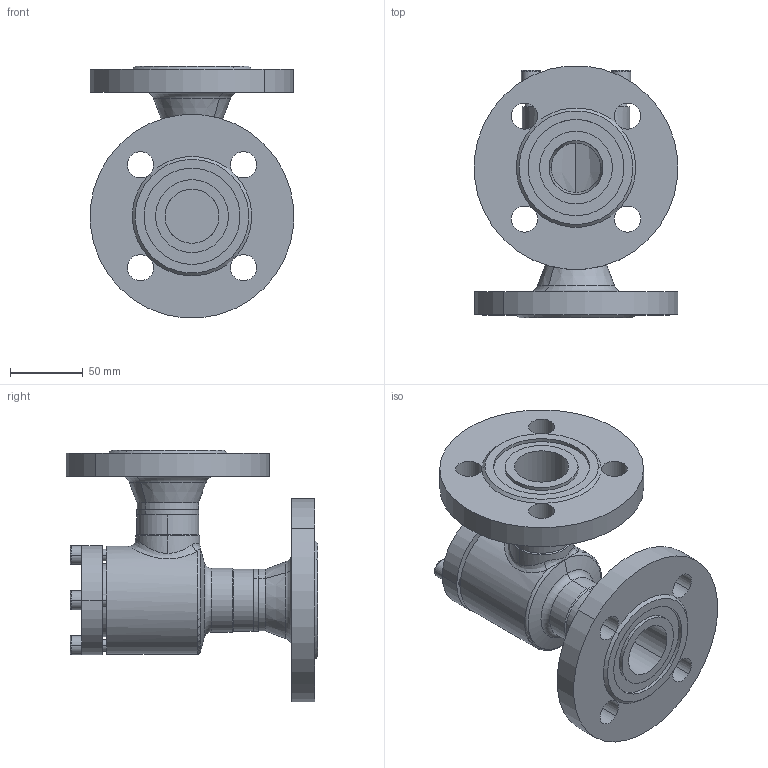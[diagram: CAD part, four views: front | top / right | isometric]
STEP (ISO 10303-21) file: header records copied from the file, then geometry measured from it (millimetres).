
FILE_DESCRIPTION (( 'STEP AP214' ), '1' );
FILE_NAME ('SS52420D13-DN032_DIN-FL-N_PS40.STEP', '2006-05-02T05:54:46', ( 'Herr Grams' ), ( 'AWP GmbH' ), 'SwSTEP 2.0', 'SolidWorks 2002296', '' );
FILE_SCHEMA (( 'AUTOMOTIVE_DESIGN' ));
Length unit declared in the file: millimetre
Products named in the file (9): SS52420D13-DN032_DIN-FL-N_PS40; Gehäuse-kpl16420-DN032_DIN_PS40_Standard; Gehäuse16400-DN032_Standard; Flansch-DIN2635-Nut_PS40_DIN-Flansch-DN032_PS40-Nut; bead16420-Geh-032-2_Standard; bead16420-Geh-032-1_Standard; SS52300E13_Deck+Schr-DN25-32_Standard; Deckel52300E13-DN25-32_Standard; Zylinderschraube-DIN912_M 8x 25
Assembly tree (12 placements, depth 3):
  SS52420D13-DN032_DIN-FL-N_PS40
    SS52300E13_Deck+Schr-DN25-32_Standard
      Zylinderschraube-DIN912_M 8x 25  x4
      Deckel52300E13-DN25-32_Standard
    Gehäuse-kpl16420-DN032_DIN_PS40_Standard
      Flansch-DIN2635-Nut_PS40_DIN-Flansch-DN032_PS40-Nut  x2
      Gehäuse16400-DN032_Standard
      bead16420-Geh-032-1_Standard
      bead16420-Geh-032-2_Standard
Bounding box: 139.47 x 172.73 x 172.73 mm (x, y, z)
Volume: 711551.2 mm3; surface area: 160223.8 mm2
Topology: 10 solids, 10 shells, 213 faces, 480 edges, 294 vertices
Faces by surface type: cylinder 84, plane 61, cone 42, torus 16, bspline 10
Entity records: 16014 total; most frequent: CARTESIAN_POINT 12514, DIRECTION 658, ORIENTED_EDGE 580, EDGE_CURVE 290, AXIS2_PLACEMENT_3D 278, VERTEX_POINT 176, EDGE_LOOP 154, CIRCLE 144
